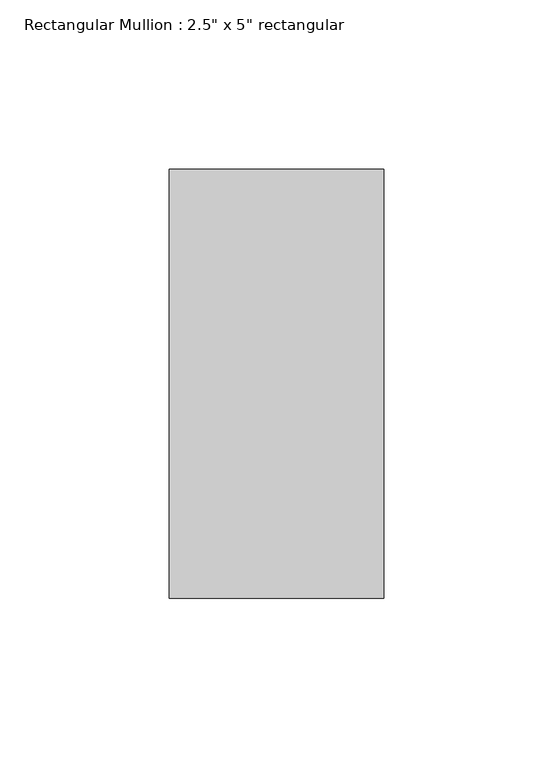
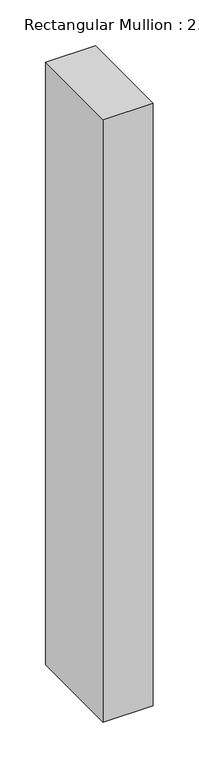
"""IFC4 building model written with IfcOpenShell, lengths in millimetres: member geometry."""

from ifc_helpers import new_model, si_unit, frame, origin, place, context, project, spatial, polyline, outline, extrude, source, transform, mapped, element, save


def member_9203dfb1(model_context):
    return source(origin(), model_context, "Body", "SweptSolid", [
        extrude(outline(polyline([(31.75, 63.5), (31.75, -63.5), (-31.75, -63.5), (-31.75, 63.5), (31.75, 63.5)])), frame((0.0, 0.0, -807.9934254), z_axis=(0.0, 0.0, 1.0), x_axis=(1.0, 0.0, 0.0)), (0.0, 0.0, 1.0), 807.9934254),
    ])


if __name__ == "__main__":
    model = new_model("IFC4")
    model_context = context("Model", 3, world=origin())
    ifc_project = project(units=[si_unit("LENGTHUNIT", "METRE", prefix="MILLI")], contexts=[model_context])
    site = spatial("IfcSite", under=ifc_project)
    building = spatial("IfcBuilding", under=site)
    placement = place(None, origin())
    member_shape = member_9203dfb1(model_context)
    element("IfcMember", 1, ObjectType="Rectangular Mullion : 2.5\" x 5\" rectangular", at=placement, inside=building, context=model_context, shape_type="MappedRepresentation", body=[
        mapped(member_shape, transform((0.0, 0.0, 0.0), x_axis=(1.0, 0.0, 0.0), y_axis=(0.0, 1.0, 0.0), z_axis=(0.0, 0.0, 1.0))),
    ])
    save(model, "model.ifc")
